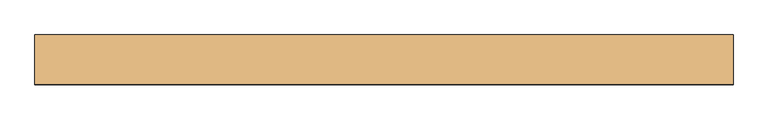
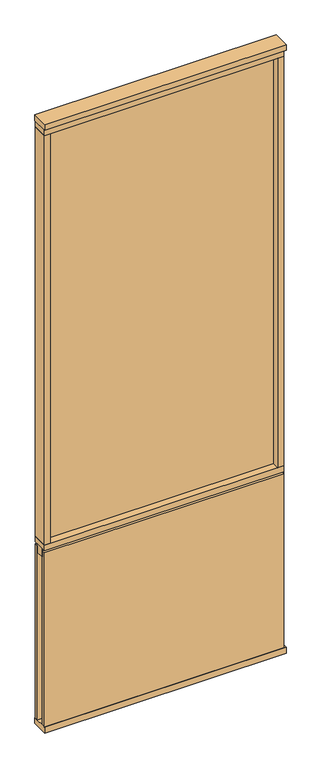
"""IFC4 building model written with IfcOpenShell, lengths in millimetres: door geometry, Mobiliário_Mobiliário de Escritório_Painel Misto Vidro Simples - AST E ASL (Complementar)_Marelli : AST - Temperado."""

from ifc_helpers import new_model, si_unit, frame, origin, origin_with_axes, place, context, project, spatial, polyline, outline, extrude, source, transform, mapped, element, save


def door_0090c74e(model_context):
    return source(origin(), model_context, "Body", "SweptSolid", [
        extrude(outline(polyline([(600.0, 42.5), (600.0, -42.5), (-600.0, -42.5), (-600.0, 42.5), (600.0, 42.5)])), origin_with_axes(), (0.0, 0.0, 1.0), 30.0),
        extrude(outline(polyline([(590.0, 39.5), (590.0, 21.5), (-600.0, 21.5), (-600.0, 39.5), (590.0, 39.5)])), frame((0.0, 0.0, 30.0), z_axis=(0.0, 0.0, 1.0), x_axis=(1.0, 0.0, 0.0)), (0.0, 0.0, 1.0), 916.5),
        extrude(outline(polyline([(590.0, 21.5), (590.0, -21.5), (-600.0, -21.5), (-600.0, 21.5), (590.0, 21.5)])), frame((0.0, 0.0, 913.5), z_axis=(0.0, 0.0, 1.0), x_axis=(1.0, 0.0, 0.0)), (0.0, 0.0, 1.0), 43.0),
        extrude(outline(polyline([(590.0, -39.5), (-600.0, -39.5), (-600.0, -21.5), (590.0, -21.5), (590.0, -39.5)])), frame((0.0, 0.0, 30.0), z_axis=(0.0, 0.0, 1.0), x_axis=(1.0, 0.0, 0.0)), (0.0, 0.0, 1.0), 916.5),
        extrude(outline(polyline([(590.0, 39.5), (590.0, -39.5), (-600.0, -39.5), (-600.0, 39.5), (590.0, 39.5)])), frame((0.0, 0.0, 956.5), z_axis=(0.0, 0.0, 1.0), x_axis=(1.0, 0.0, 0.0)), (0.0, 0.0, 1.0), 30.0),
        extrude(outline(polyline([(600.0, 42.5), (600.0, -42.5), (-600.0, -42.5), (-600.0, 42.5), (600.0, 42.5)])), frame((0.0, 0.0, 3170.0), z_axis=(0.0, 0.0, 1.0), x_axis=(1.0, 0.0, 0.0)), (0.0, 0.0, 1.0), 30.0),
        extrude(outline(polyline([(590.0, 39.5), (590.0, -39.5), (-600.0, -39.5), (-600.0, 39.5), (590.0, 39.5)])), frame((0.0, 0.0, 3140.0), z_axis=(0.0, 0.0, 1.0), x_axis=(1.0, 0.0, 0.0)), (0.0, 0.0, 1.0), 30.0),
        extrude(outline(polyline([(600.0, -21.5), (590.0, -21.5), (590.0, 21.5), (600.0, 21.5), (600.0, -21.5)])), frame((0.0, 0.0, 30.0), z_axis=(0.0, 0.0, 1.0), x_axis=(1.0, 0.0, 0.0)), (0.0, 0.0, 1.0), 3140.0),
        extrude(outline(polyline([(-570.0, 39.5), (-570.0, -39.5), (-600.0, -39.5), (-600.0, 39.5), (-570.0, 39.5)])), frame((0.0, 0.0, 986.5), z_axis=(0.0, 0.0, 1.0), x_axis=(1.0, 0.0, 0.0)), (0.0, 0.0, 1.0), 2153.5),
        extrude(outline(polyline([(560.0, 39.5), (590.0, 39.5), (590.0, -39.5), (560.0, -39.5), (560.0, 39.5)])), frame((0.0, 0.0, 986.5), z_axis=(0.0, 0.0, 1.0), x_axis=(1.0, 0.0, 0.0)), (0.0, 0.0, 1.0), 2153.5),
        extrude(outline(polyline([(560.0, 3.0), (560.0, -3.0), (-570.0, -3.0), (-570.0, 3.0), (560.0, 3.0)])), frame((0.0, 0.0, 986.5), z_axis=(0.0, 0.0, 1.0), x_axis=(1.0, 0.0, 0.0)), (0.0, 0.0, 1.0), 2153.5),
    ])


if __name__ == "__main__":
    model = new_model("IFC4")
    model_context = context("Model", 3, world=origin())
    ifc_project = project(units=[si_unit("LENGTHUNIT", "METRE", prefix="MILLI")], contexts=[model_context])
    site = spatial("IfcSite", under=ifc_project)
    building = spatial("IfcBuilding", under=site)
    placement = place(None, origin())
    door_shape = door_0090c74e(model_context)
    element("IfcDoor", 1, ObjectType="Mobiliário_Mobiliário de Escritório_Painel Misto Vidro Simples - AST E ASL (Complementar)_Marelli : AST - Temperado", at=placement, inside=building, context=model_context, shape_type="MappedRepresentation", body=[
        mapped(door_shape, transform((0.0, 0.0, 0.0), x_axis=(1.0, 0.0, 0.0), y_axis=(0.0, 1.0, 0.0), z_axis=(0.0, 0.0, 1.0))),
    ])
    save(model, "model.ifc")
